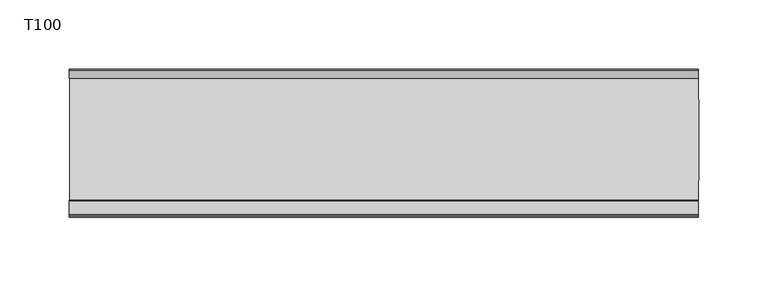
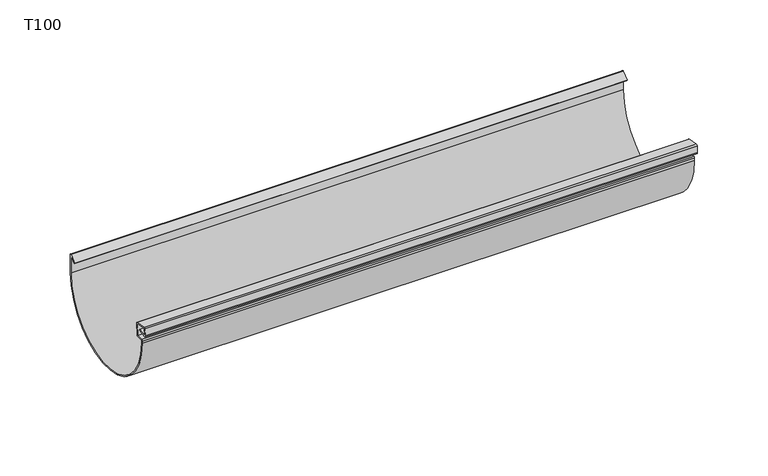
"""IFC4 building model written with IfcOpenShell, lengths in millimetres: proxy geometry, GROVIK_Gutter_Straight : T100."""

from ifc_helpers import new_model, si_unit, point, frame, frame_2d, origin, place, context, project, spatial, polyline, circle_curve, trimmed, segment, composite_curve, outline, extrude, source, transform, mapped, element, save


def t100_06940790(model_context):
    return source(origin(), model_context, "Body", "SweptSolid", [
        extrude(outline(composite_curve([segment(polyline([(95.6785725, 12.9222473), (94.8220658, 3.1323306), (104.7816977, 1.3761787), (105.2998033, 7.2981526), (98.3413035, 6.0711814), (98.1850202, 6.9575084), (105.0151773, 8.1618494)]), True, "CONTINUOUS"), segment(trimmed(circle_curve(frame_2d((105.1888255, 7.1770416)), 1.0), [point((105.0151773, 8.1618494))], [point((106.1850202, 7.0898858))], False, "CARTESIAN"), True, "CONTINUOUS"), segment(polyline([(106.1850202, 7.0898858), (105.6885136, 1.4147892)]), True, "CONTINUOUS"), segment(trimmed(circle_curve(frame_2d((104.6923189, 1.501945)), 1.0), [point((105.6885136, 1.4147892))], [point((104.6051631, 0.5057503))], False, "CARTESIAN"), True, "CONTINUOUS"), segment(polyline([(104.6051631, 0.5057503), (94.7570856, 2.242232)]), True, "CONTINUOUS"), segment(trimmed(circle_curve(frame_2d((94.9307338, 3.2270397)), 1.0), [point((94.7570856, 2.242232))], [point((93.9345391, 3.3141955))], False, "CARTESIAN"), True, "CONTINUOUS"), segment(polyline([(93.9345391, 3.3141955), (94.7746841, 12.9170968)]), True, "CONTINUOUS"), segment(trimmed(circle_curve(frame_2d((95.683723, 12.9170968)), 0.909039), [point((94.7746841, 12.9170968))], [point((95.683723, 13.8261357))], False, "CARTESIAN"), True, "CONTINUOUS"), segment(polyline([(95.683723, 13.8261357), (100.9, 14.2825008), (100.9, 16.3578028)]), True, "CONTINUOUS"), segment(trimmed(circle_curve(frame_2d((50.9, 16.3578028)), 50.0), [point((100.9, 16.3578028))], [point((0.9, 16.3578028))], True, "CARTESIAN"), True, "CONTINUOUS"), segment(polyline([(0.9, 16.3578028), (0.9, 1.3578028), (5.6494755, 5.343086), (6.2279844, 4.6536459), (0.8213938, 0.1169778)]), True, "CONTINUOUS"), segment(trimmed(circle_curve(frame_2d((0.5, 0.5000001)), 0.5), [point((0.8213938, 0.1169778))], [point((0.0, 0.5000001))], False, "CARTESIAN"), True, "CONTINUOUS"), segment(polyline([(0.0, 0.5000001), (0.0, 16.3578028)]), True, "CONTINUOUS"), segment(trimmed(circle_curve(frame_2d((50.9, 16.3578028)), 50.9), [point((0.0, 16.3578028))], [point((101.8, 16.3578028))], False, "CARTESIAN"), True, "CONTINUOUS"), segment(polyline([(101.8, 16.3578028), (101.8, 14.374134)]), True, "CONTINUOUS"), segment(trimmed(circle_curve(frame_2d((100.8, 14.374134)), 1.0), [point((101.8, 14.374134))], [point((100.8871557, 13.3779393))], False, "CARTESIAN"), True, "CONTINUOUS"), segment(polyline([(100.8871557, 13.3779393), (95.6785725, 12.9222473)]), True, "CONTINUOUS")], self_intersect=False)), frame((45.0, 0.0, 0.0), z_axis=(0.9999995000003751, 0.0, 0.0009999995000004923), x_axis=(0.0, -1.0, 0.0)), (0.0, 0.0, 1.0), 452.5526293),
    ])


if __name__ == "__main__":
    model = new_model("IFC4")
    model_context = context("Model", 3, world=origin())
    ifc_project = project(units=[si_unit("LENGTHUNIT", "METRE", prefix="MILLI")], contexts=[model_context])
    site = spatial("IfcSite", under=ifc_project)
    building = spatial("IfcBuilding", under=site)
    placement = place(None, origin())
    t100_shape = t100_06940790(model_context)
    element("IfcBuildingElementProxy", 1, Name="GROVIK_Gutter_Straight : T100", ObjectType="GROVIK_Gutter_Straight : T100", at=placement, inside=building, context=model_context, shape_type="MappedRepresentation", body=[
        mapped(t100_shape, transform((0.0, 0.0, 0.0), x_axis=(1.0, 0.0, 0.0), y_axis=(0.0, 1.0, 0.0), z_axis=(0.0, 0.0, 1.0))),
    ])
    save(model, "model.ifc")
